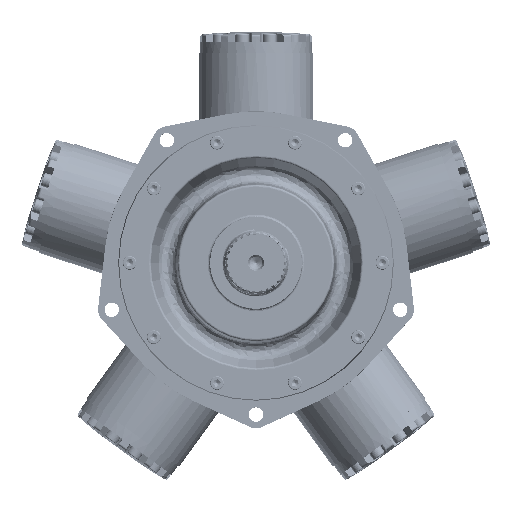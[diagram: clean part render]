
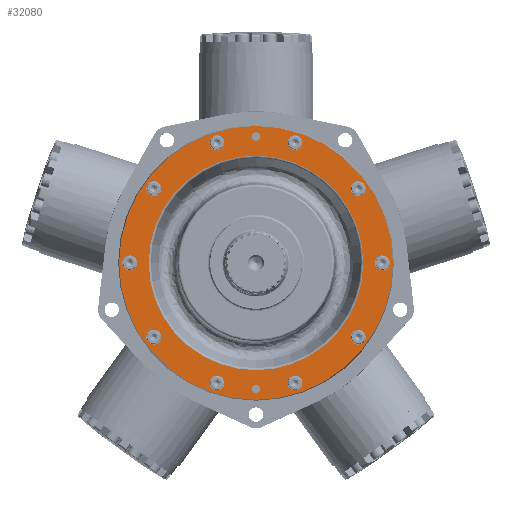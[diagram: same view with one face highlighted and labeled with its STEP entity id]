
A CAD part, top view. The second image highlights one B-rep face of the part: STEP entity #32080.
In plain terms, the highlighted planar face has unit normal (0, 0, 1).
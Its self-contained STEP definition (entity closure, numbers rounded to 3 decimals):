
#31378=CARTESIAN_POINT('',(0.,148.273,69.151));
#31379=VERTEX_POINT('',#31378);
#31380=CARTESIAN_POINT('',(0.0,0.0,69.151));
#31381=DIRECTION('',(0.0,0.0,1.0));
#31382=DIRECTION('',(0.0,-1.0,0.0));
#31383=AXIS2_PLACEMENT_3D('',#31380,#31381,#31382);
#31384=CIRCLE('',#31383,148.273);
#31385=EDGE_CURVE('',#31379,#31379,#31384,.T.);
#31929=CARTESIAN_POINT('',(0.,169.862,69.151));
#31930=DIRECTION('',(0.0,0.0,1.0));
#31931=DIRECTION('',(1.0,0.0,0.0));
#31932=AXIS2_PLACEMENT_3D('',#31929,#31930,#31931);
#31933=PLANE('',#31932);
#31934=CARTESIAN_POINT('',(0.,-189.176,69.151));
#31935=VERTEX_POINT('',#31934);
#31936=CARTESIAN_POINT('',(0.0,0.0,69.151));
#31937=DIRECTION('',(0.0,0.0,-1.0));
#31938=DIRECTION('',(0.0,1.0,0.0));
#31939=AXIS2_PLACEMENT_3D('',#31936,#31937,#31938);
#31940=CIRCLE('',#31939,189.176);
#31941=EDGE_CURVE('',#31935,#31935,#31940,.T.);
#31942=ORIENTED_EDGE('',*,*,#31941,.F.);
#31943=EDGE_LOOP('',(#31942));
#31944=FACE_OUTER_BOUND('',#31943,.T.);
#31945=CARTESIAN_POINT('',(62.31,160.013,69.151));
#31946=VERTEX_POINT('',#31945);
#31947=CARTESIAN_POINT('',(53.962,166.078,69.151));
#31948=DIRECTION('',(0.0,0.0,-1.0));
#31949=DIRECTION('',(0.809,-0.588,0.0));
#31950=AXIS2_PLACEMENT_3D('',#31947,#31948,#31949);
#31951=CIRCLE('',#31950,10.319);
#31952=EDGE_CURVE('',#31946,#31946,#31951,.T.);
#31953=ORIENTED_EDGE('',*,*,#31952,.T.);
#31954=EDGE_LOOP('',(#31953));
#31955=FACE_BOUND('',#31954,.T.);
#31956=CARTESIAN_POINT('',(144.463,92.828,69.151));
#31957=VERTEX_POINT('',#31956);
#31958=CARTESIAN_POINT('',(141.275,102.642,69.151));
#31959=DIRECTION('',(0.0,0.0,-1.0));
#31960=DIRECTION('',(0.309,-0.951,0.0));
#31961=AXIS2_PLACEMENT_3D('',#31958,#31959,#31960);
#31962=CIRCLE('',#31961,10.319);
#31963=EDGE_CURVE('',#31957,#31957,#31962,.T.);
#31964=ORIENTED_EDGE('',*,*,#31963,.T.);
#31965=EDGE_LOOP('',(#31964));
#31966=FACE_BOUND('',#31965,.T.);
#31967=CARTESIAN_POINT('',(171.436,-9.814,69.151));
#31968=VERTEX_POINT('',#31967);
#31969=CARTESIAN_POINT('',(174.625,0.,69.151));
#31970=DIRECTION('',(0.0,0.0,-1.));
#31971=DIRECTION('',(-0.309,-0.951,0.0));
#31972=AXIS2_PLACEMENT_3D('',#31969,#31970,#31971);
#31973=CIRCLE('',#31972,10.319);
#31974=EDGE_CURVE('',#31968,#31968,#31973,.T.);
#31975=ORIENTED_EDGE('',*,*,#31974,.T.);
#31976=EDGE_LOOP('',(#31975));
#31977=FACE_BOUND('',#31976,.T.);
#31978=CARTESIAN_POINT('',(132.927,-108.707,69.151));
#31979=VERTEX_POINT('',#31978);
#31980=CARTESIAN_POINT('',(141.275,-102.642,69.151));
#31981=DIRECTION('',(0.0,0.0,-1.));
#31982=DIRECTION('',(-0.809,-0.588,0.0));
#31983=AXIS2_PLACEMENT_3D('',#31980,#31981,#31982);
#31984=CIRCLE('',#31983,10.319);
#31985=EDGE_CURVE('',#31979,#31979,#31984,.T.);
#31986=ORIENTED_EDGE('',*,*,#31985,.T.);
#31987=EDGE_LOOP('',(#31986));
#31988=FACE_BOUND('',#31987,.T.);
#31989=CARTESIAN_POINT('',(43.643,-166.078,69.151));
#31990=VERTEX_POINT('',#31989);
#31991=CARTESIAN_POINT('',(53.962,-166.078,69.151));
#31992=DIRECTION('',(0.0,0.0,-1.0));
#31993=DIRECTION('',(-1.0,0.0,0.0));
#31994=AXIS2_PLACEMENT_3D('',#31991,#31992,#31993);
#31995=CIRCLE('',#31994,10.319);
#31996=EDGE_CURVE('',#31990,#31990,#31995,.T.);
#31997=ORIENTED_EDGE('',*,*,#31996,.T.);
#31998=EDGE_LOOP('',(#31997));
#31999=FACE_BOUND('',#31998,.T.);
#32000=CARTESIAN_POINT('',(-62.31,-160.013,69.151));
#32001=VERTEX_POINT('',#32000);
#32002=CARTESIAN_POINT('',(-53.962,-166.078,69.151));
#32003=DIRECTION('',(0.0,0.0,-1.0));
#32004=DIRECTION('',(-0.809,0.588,0.0));
#32005=AXIS2_PLACEMENT_3D('',#32002,#32003,#32004);
#32006=CIRCLE('',#32005,10.319);
#32007=EDGE_CURVE('',#32001,#32001,#32006,.T.);
#32008=ORIENTED_EDGE('',*,*,#32007,.T.);
#32009=EDGE_LOOP('',(#32008));
#32010=FACE_BOUND('',#32009,.T.);
#32011=CARTESIAN_POINT('',(-144.463,-92.828,69.151));
#32012=VERTEX_POINT('',#32011);
#32013=CARTESIAN_POINT('',(-141.275,-102.642,69.151));
#32014=DIRECTION('',(0.0,0.0,-1.));
#32015=DIRECTION('',(-0.309,0.951,0.0));
#32016=AXIS2_PLACEMENT_3D('',#32013,#32014,#32015);
#32017=CIRCLE('',#32016,10.319);
#32018=EDGE_CURVE('',#32012,#32012,#32017,.T.);
#32019=ORIENTED_EDGE('',*,*,#32018,.T.);
#32020=EDGE_LOOP('',(#32019));
#32021=FACE_BOUND('',#32020,.T.);
#32022=CARTESIAN_POINT('',(-171.436,9.814,69.151));
#32023=VERTEX_POINT('',#32022);
#32024=CARTESIAN_POINT('',(-174.625,0.,69.151));
#32025=DIRECTION('',(0.0,0.0,-1.));
#32026=DIRECTION('',(0.309,0.951,0.0));
#32027=AXIS2_PLACEMENT_3D('',#32024,#32025,#32026);
#32028=CIRCLE('',#32027,10.319);
#32029=EDGE_CURVE('',#32023,#32023,#32028,.T.);
#32030=ORIENTED_EDGE('',*,*,#32029,.T.);
#32031=EDGE_LOOP('',(#32030));
#32032=FACE_BOUND('',#32031,.T.);
#32033=CARTESIAN_POINT('',(-132.927,108.707,69.151));
#32034=VERTEX_POINT('',#32033);
#32035=CARTESIAN_POINT('',(-141.275,102.642,69.151));
#32036=DIRECTION('',(0.0,0.0,-1.0));
#32037=DIRECTION('',(0.809,0.588,0.0));
#32038=AXIS2_PLACEMENT_3D('',#32035,#32036,#32037);
#32039=CIRCLE('',#32038,10.319);
#32040=EDGE_CURVE('',#32034,#32034,#32039,.T.);
#32041=ORIENTED_EDGE('',*,*,#32040,.T.);
#32042=EDGE_LOOP('',(#32041));
#32043=FACE_BOUND('',#32042,.T.);
#32044=CARTESIAN_POINT('',(-43.643,166.078,69.151));
#32045=VERTEX_POINT('',#32044);
#32046=CARTESIAN_POINT('',(-53.962,166.078,69.151));
#32047=DIRECTION('',(0.0,0.0,-1.0));
#32048=DIRECTION('',(1.0,0.0,0.0));
#32049=AXIS2_PLACEMENT_3D('',#32046,#32047,#32048);
#32050=CIRCLE('',#32049,10.319);
#32051=EDGE_CURVE('',#32045,#32045,#32050,.T.);
#32052=ORIENTED_EDGE('',*,*,#32051,.T.);
#32053=EDGE_LOOP('',(#32052));
#32054=FACE_BOUND('',#32053,.T.);
#32055=CARTESIAN_POINT('',(-5.664,-174.625,69.151));
#32056=VERTEX_POINT('',#32055);
#32057=CARTESIAN_POINT('',(0.,-174.625,69.151));
#32058=DIRECTION('',(0.0,0.0,-1.0));
#32059=DIRECTION('',(-1.0,0.0,0.0));
#32060=AXIS2_PLACEMENT_3D('',#32057,#32058,#32059);
#32061=CIRCLE('',#32060,5.664);
#32062=EDGE_CURVE('',#32056,#32056,#32061,.T.);
#32063=ORIENTED_EDGE('',*,*,#32062,.T.);
#32064=EDGE_LOOP('',(#32063));
#32065=FACE_BOUND('',#32064,.T.);
#32066=CARTESIAN_POINT('',(5.664,174.625,69.151));
#32067=VERTEX_POINT('',#32066);
#32068=CARTESIAN_POINT('',(0.,174.625,69.151));
#32069=DIRECTION('',(0.0,0.0,-1.0));
#32070=DIRECTION('',(1.0,0.0,0.0));
#32071=AXIS2_PLACEMENT_3D('',#32068,#32069,#32070);
#32072=CIRCLE('',#32071,5.664);
#32073=EDGE_CURVE('',#32067,#32067,#32072,.T.);
#32074=ORIENTED_EDGE('',*,*,#32073,.T.);
#32075=EDGE_LOOP('',(#32074));
#32076=FACE_BOUND('',#32075,.T.);
#32077=ORIENTED_EDGE('',*,*,#31385,.F.);
#32078=EDGE_LOOP('',(#32077));
#32079=FACE_BOUND('',#32078,.T.);
#32080=ADVANCED_FACE('',(#31944,#31955,#31966,#31977,#31988,#31999,#32010,#32021,#32032,#32043,#32054,#32065,#32076,#32079),#31933,.T.);
